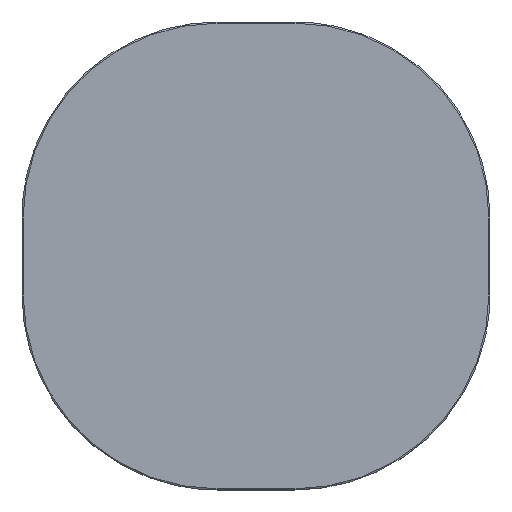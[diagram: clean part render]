
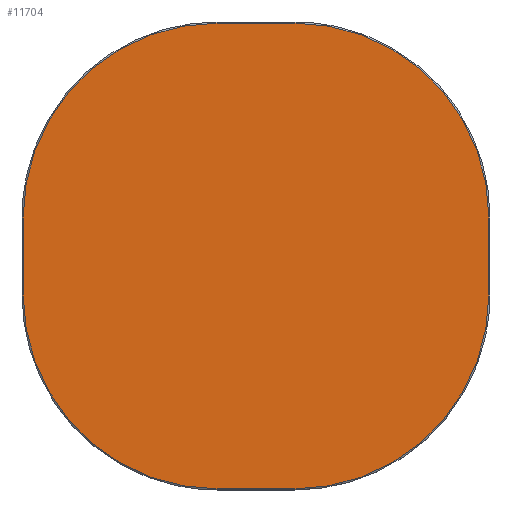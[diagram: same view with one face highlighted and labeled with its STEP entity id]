
A CAD part, top view. The second image highlights one B-rep face of the part: STEP entity #11704.
In plain terms, the highlighted planar face has unit normal (0, 0, 1).
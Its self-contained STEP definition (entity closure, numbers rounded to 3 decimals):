
#11614=CARTESIAN_POINT('',(0.,0.,20.));
#11615=DIRECTION('',(1.,0.,0.));
#11616=DIRECTION('',(0.,0.,1.));
#11617=AXIS2_PLACEMENT_3D('',#11614,#11616,#11615);
#11618=PLANE('',#11617);
#11619=CARTESIAN_POINT('',(-50.,-298.5,20.));
#11620=VERTEX_POINT('',#11619);
#11621=CARTESIAN_POINT('',(50.,-298.5,20.));
#11622=VERTEX_POINT('',#11621);
#11623=CARTESIAN_POINT('',(-50.,-298.5,20.));
#11624=DIRECTION('',(1.,0.,0.));
#11625=VECTOR('',#11624,100.);
#11626=LINE('',#11623,#11625);
#11627=EDGE_CURVE('',#11620,#11622,#11626,.T.);
#11628=ORIENTED_EDGE('E105',*,*,#11627,.T.);
#11629=CARTESIAN_POINT('',(298.5,-50.,20.));
#11630=VERTEX_POINT('',#11629);
#11631=CARTESIAN_POINT('',(50.,-50.,20.));
#11632=DIRECTION('',(0.,-1.,0.));
#11633=DIRECTION('',(0.,0.,1.));
#11634=AXIS2_PLACEMENT_3D('',#11631,#11633,#11632);
#11635=CIRCLE('',#11634,248.5);
#11636=EDGE_CURVE('',#11622,#11630,#11635,.T.);
#11637=ORIENTED_EDGE('E107',*,*,#11636,.T.);
#11638=CARTESIAN_POINT('',(298.5,50.001,20.));
#11639=VERTEX_POINT('',#11638);
#11640=CARTESIAN_POINT('',(298.5,-50.,20.));
#11641=CARTESIAN_POINT('',(298.5,-23.23,20.));
#11642=CARTESIAN_POINT('',(298.5,26.77,20.));
#11643=CARTESIAN_POINT('',(298.5,50.001,20.));
#11644=B_SPLINE_CURVE_WITH_KNOTS('',2,(#11640,#11641,#11642,#11643),.UNSPECIFIED.,.F.,.U.,(3,1,3),(0.,0.535,1.),.UNSPECIFIED.);
#11645=EDGE_CURVE('',#11630,#11639,#11644,.T.);
#11646=ORIENTED_EDGE('E109',*,*,#11645,.T.);
#11647=CARTESIAN_POINT('',(50.,298.5,20.));
#11648=VERTEX_POINT('',#11647);
#11649=CARTESIAN_POINT('',(50.,50.,20.));
#11650=DIRECTION('',(1.,0.,0.));
#11651=DIRECTION('',(0.,0.,1.));
#11652=AXIS2_PLACEMENT_3D('',#11649,#11651,#11650);
#11653=CIRCLE('',#11652,248.5);
#11654=EDGE_CURVE('',#11639,#11648,#11653,.T.);
#11655=ORIENTED_EDGE('E111',*,*,#11654,.T.);
#11656=CARTESIAN_POINT('',(-50.001,298.5,20.));
#11657=VERTEX_POINT('',#11656);
#11658=CARTESIAN_POINT('',(50.,298.5,20.));
#11659=CARTESIAN_POINT('',(44.06,298.499,20.));
#11660=CARTESIAN_POINT('',(33.903,298.5,20.));
#11661=CARTESIAN_POINT('',(23.359,298.5,20.));
#11662=CARTESIAN_POINT('',(7.191,298.5,20.));
#11663=CARTESIAN_POINT('',(-12.023,298.5,20.));
#11664=CARTESIAN_POINT('',(-27.644,298.501,20.));
#11665=CARTESIAN_POINT('',(-38.058,298.499,20.));
#11666=CARTESIAN_POINT('',(-46.112,298.498,20.));
#11667=CARTESIAN_POINT('',(-50.001,298.5,20.));
#11668=B_SPLINE_CURVE_WITH_KNOTS('',2,(#11658,#11659,#11660,#11661,#11662,#11663,#11664,#11665,#11666,#11667),.UNSPECIFIED.,.F.,.U.,(3,1,1,1,1,1,1,1,3),(0.,0.119,0.203,0.33,0.527,0.714,0.839,0.922,1.),.UNSPECIFIED.);
#11669=EDGE_CURVE('',#11648,#11657,#11668,.T.);
#11670=ORIENTED_EDGE('E113',*,*,#11669,.T.);
#11671=CARTESIAN_POINT('',(-298.5,50.,20.));
#11672=VERTEX_POINT('',#11671);
#11673=CARTESIAN_POINT('',(-50.,50.,20.));
#11674=DIRECTION('',(0.,1.,0.));
#11675=DIRECTION('',(0.,0.,1.));
#11676=AXIS2_PLACEMENT_3D('',#11673,#11675,#11674);
#11677=CIRCLE('',#11676,248.5);
#11678=EDGE_CURVE('',#11657,#11672,#11677,.T.);
#11679=ORIENTED_EDGE('E115',*,*,#11678,.T.);
#11680=CARTESIAN_POINT('',(-298.5,-50.001,20.));
#11681=VERTEX_POINT('',#11680);
#11682=CARTESIAN_POINT('',(-298.5,50.,20.));
#11683=CARTESIAN_POINT('',(-298.499,44.06,20.));
#11684=CARTESIAN_POINT('',(-298.5,33.903,20.));
#11685=CARTESIAN_POINT('',(-298.5,23.359,20.));
#11686=CARTESIAN_POINT('',(-298.5,7.191,20.));
#11687=CARTESIAN_POINT('',(-298.5,-12.023,20.));
#11688=CARTESIAN_POINT('',(-298.501,-27.644,20.));
#11689=CARTESIAN_POINT('',(-298.499,-38.058,20.));
#11690=CARTESIAN_POINT('',(-298.498,-46.112,20.));
#11691=CARTESIAN_POINT('',(-298.5,-50.001,20.));
#11692=B_SPLINE_CURVE_WITH_KNOTS('',2,(#11682,#11683,#11684,#11685,#11686,#11687,#11688,#11689,#11690,#11691),.UNSPECIFIED.,.F.,.U.,(3,1,1,1,1,1,1,1,3),(0.,0.119,0.203,0.33,0.527,0.714,0.839,0.922,1.),.UNSPECIFIED.);
#11693=EDGE_CURVE('',#11672,#11681,#11692,.T.);
#11694=ORIENTED_EDGE('E117',*,*,#11693,.T.);
#11695=CARTESIAN_POINT('',(-50.,-50.,20.));
#11696=DIRECTION('',(-1.,0.,0.));
#11697=DIRECTION('',(0.,0.,1.));
#11698=AXIS2_PLACEMENT_3D('',#11695,#11697,#11696);
#11699=CIRCLE('',#11698,248.5);
#11700=EDGE_CURVE('',#11681,#11620,#11699,.T.);
#11701=ORIENTED_EDGE('E119',*,*,#11700,.T.);
#11702=EDGE_LOOP('',(#11628,#11637,#11646,#11655,#11670,#11679,#11694,#11701));
#11703=FACE_OUTER_BOUND('',#11702,.T.);
#11704=ADVANCED_FACE('F2',(#11703),#11618,.T.);
